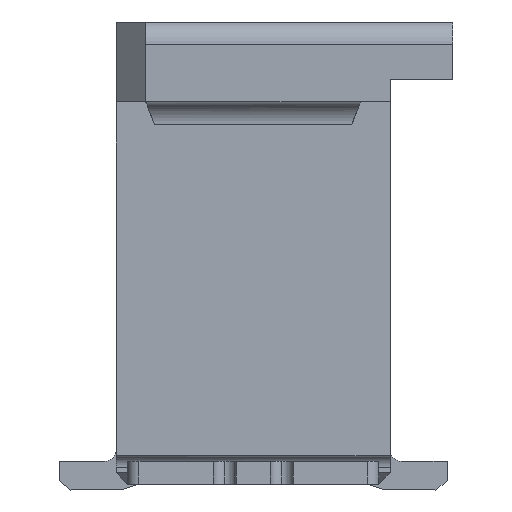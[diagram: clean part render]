
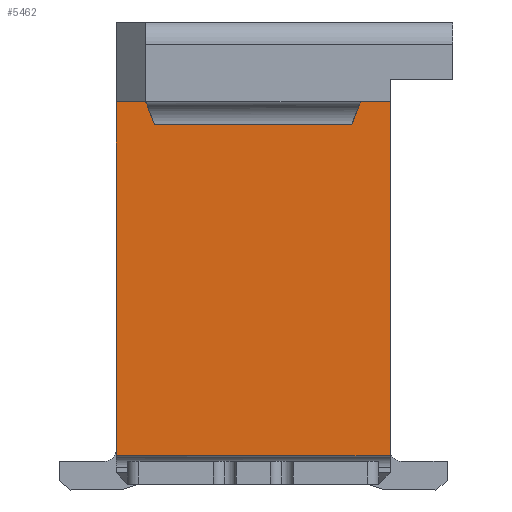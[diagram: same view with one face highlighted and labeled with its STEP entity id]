
A CAD part, left-side view. The second image highlights one B-rep face of the part: STEP entity #5462.
In plain terms, the highlighted planar face has unit normal (-1, 0, 0).
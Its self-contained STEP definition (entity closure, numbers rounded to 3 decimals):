
#32 = CARTESIAN_POINT ( 'NONE',  ( -4.7, 1.2, 0.25 ) ) ;
#302 = ORIENTED_EDGE ( 'NONE', *, *, #4507, .F. ) ;
#305 = B_SPLINE_CURVE_WITH_KNOTS ( 'NONE', 3,
 ( #8926, #8173, #9867, #2986 ),
 .UNSPECIFIED., .F., .F.,
 ( 4, 4 ),
 ( 0.07, 0.108 ),
 .UNSPECIFIED. ) ;
#340 = DIRECTION ( 'NONE',  ( 0., -1., 0. ) ) ;
#505 = EDGE_LOOP ( 'NONE', ( #9512, #6033, #2440, #302, #3277, #3327, #7653, #6742, #1732 ) ) ;
#589 = CARTESIAN_POINT ( 'NONE',  ( -4.7, 1.2, 3.35 ) ) ;
#690 = DIRECTION ( 'NONE',  ( 0., -1., 0. ) ) ;
#959 = CARTESIAN_POINT ( 'NONE',  ( -4.7, 4.83, 3.35 ) ) ;
#1006 = FACE_OUTER_BOUND ( 'NONE', #505, .T. ) ;
#1054 = CARTESIAN_POINT ( 'NONE',  ( -4.7, 1.033, 3.35 ) ) ;
#1267 = LINE ( 'NONE', #5454, #7832 ) ;
#1276 = DIRECTION ( 'NONE',  ( 0., -0.355, -0.935 ) ) ;
#1732 = ORIENTED_EDGE ( 'NONE', *, *, #6969, .T. ) ;
#1809 = DIRECTION ( 'NONE',  ( 0., 0., 1. ) ) ;
#2039 = VECTOR ( 'NONE', #690, 1000. ) ;
#2440 = ORIENTED_EDGE ( 'NONE', *, *, #4879, .F. ) ;
#2526 = LINE ( 'NONE', #3429, #4408 ) ;
#2717 = DIRECTION ( 'NONE',  ( 0., -0.355, 0.935 ) ) ;
#2723 = VERTEX_POINT ( 'NONE', #32 ) ;
#2750 = EDGE_CURVE ( 'NONE', #7920, #2723, #2526, .T. ) ;
#2849 = CARTESIAN_POINT ( 'NONE',  ( -4.7, 4.83, 3.35 ) ) ;
#2986 = CARTESIAN_POINT ( 'NONE',  ( -4.7, 0.94, 3.35 ) ) ;
#3138 = VECTOR ( 'NONE', #2717, 1000. ) ;
#3277 = ORIENTED_EDGE ( 'NONE', *, *, #6781, .F. ) ;
#3327 = ORIENTED_EDGE ( 'NONE', *, *, #8457, .F. ) ;
#3387 = VERTEX_POINT ( 'NONE', #5854 ) ;
#3429 = CARTESIAN_POINT ( 'NONE',  ( -4.7, 1.2, 3.35 ) ) ;
#3495 = DIRECTION ( 'NONE',  ( 1., 0., 0. ) ) ;
#3737 = VECTOR ( 'NONE', #5632, 1000. ) ;
#3859 = CARTESIAN_POINT ( 'NONE',  ( -4.7, -1.2, 0.25 ) ) ;
#3975 = CARTESIAN_POINT ( 'NONE',  ( -4.7, 4.83, 0.25 ) ) ;
#4181 = VERTEX_POINT ( 'NONE', #5801 ) ;
#4408 = VECTOR ( 'NONE', #10311, 1000. ) ;
#4507 = EDGE_CURVE ( 'NONE', #3387, #9242, #1267, .T. ) ;
#4678 = AXIS2_PLACEMENT_3D ( 'NONE', #959, #3495, #1809 ) ;
#4879 = EDGE_CURVE ( 'NONE', #9242, #4181, #10464, .T. ) ;
#4959 = LINE ( 'NONE', #5744, #3737 ) ;
#5454 = CARTESIAN_POINT ( 'NONE',  ( -4.7, 1.2, 3.15 ) ) ;
#5462 = ADVANCED_FACE ( 'NONE', ( #1006 ), #7755, .F. ) ;
#5471 = CARTESIAN_POINT ( 'NONE',  ( -4.7, 1.431, 4.642 ) ) ;
#5632 = DIRECTION ( 'NONE',  ( 0., 1., 0. ) ) ;
#5744 = CARTESIAN_POINT ( 'NONE',  ( -4.7, 4.83, 3.35 ) ) ;
#5801 = CARTESIAN_POINT ( 'NONE',  ( -4.7, -0.94, 3.35 ) ) ;
#5854 = CARTESIAN_POINT ( 'NONE',  ( -4.7, 0.864, 3.15 ) ) ;
#6033 = ORIENTED_EDGE ( 'NONE', *, *, #10046, .T. ) ;
#6742 = ORIENTED_EDGE ( 'NONE', *, *, #2750, .T. ) ;
#6772 = EDGE_CURVE ( 'NONE', #7920, #10419, #8823, .T. ) ;
#6778 = DIRECTION ( 'NONE',  ( 0., 0., 1. ) ) ;
#6781 = EDGE_CURVE ( 'NONE', #10161, #3387, #9244, .T. ) ;
#6856 = CARTESIAN_POINT ( 'NONE',  ( -4.7, -0.864, 3.15 ) ) ;
#6894 = VERTEX_POINT ( 'NONE', #3859 ) ;
#6969 = EDGE_CURVE ( 'NONE', #2723, #6894, #8182, .T. ) ;
#7098 = LINE ( 'NONE', #8480, #8565 ) ;
#7575 = CARTESIAN_POINT ( 'NONE',  ( -4.7, 0.94, 3.35 ) ) ;
#7653 = ORIENTED_EDGE ( 'NONE', *, *, #6772, .F. ) ;
#7677 = VECTOR ( 'NONE', #1276, 1000. ) ;
#7755 = PLANE ( 'NONE',  #4678 ) ;
#7832 = VECTOR ( 'NONE', #8843, 1000. ) ;
#7920 = VERTEX_POINT ( 'NONE', #589 ) ;
#8051 = VECTOR ( 'NONE', #340, 1000. ) ;
#8173 = CARTESIAN_POINT ( 'NONE',  ( -4.7, 1.002, 3.35 ) ) ;
#8182 = LINE ( 'NONE', #3975, #2039 ) ;
#8457 = EDGE_CURVE ( 'NONE', #10419, #10161, #305, .T. ) ;
#8480 = CARTESIAN_POINT ( 'NONE',  ( -4.7, -1.2, 3.35 ) ) ;
#8565 = VECTOR ( 'NONE', #6778, 1000. ) ;
#8704 = CARTESIAN_POINT ( 'NONE',  ( -4.7, -0.212, 1.434 ) ) ;
#8823 = LINE ( 'NONE', #2849, #8051 ) ;
#8843 = DIRECTION ( 'NONE',  ( 0., -1., 0. ) ) ;
#8850 = CARTESIAN_POINT ( 'NONE',  ( -4.7, -1.2, 3.35 ) ) ;
#8926 = CARTESIAN_POINT ( 'NONE',  ( -4.7, 1.033, 3.35 ) ) ;
#9047 = EDGE_CURVE ( 'NONE', #6894, #10563, #7098, .T. ) ;
#9242 = VERTEX_POINT ( 'NONE', #6856 ) ;
#9244 = LINE ( 'NONE', #5471, #7677 ) ;
#9512 = ORIENTED_EDGE ( 'NONE', *, *, #9047, .T. ) ;
#9867 = CARTESIAN_POINT ( 'NONE',  ( -4.7, 0.971, 3.35 ) ) ;
#10046 = EDGE_CURVE ( 'NONE', #10563, #4181, #4959, .T. ) ;
#10161 = VERTEX_POINT ( 'NONE', #7575 ) ;
#10311 = DIRECTION ( 'NONE',  ( 0., 0., -1. ) ) ;
#10419 = VERTEX_POINT ( 'NONE', #1054 ) ;
#10464 = LINE ( 'NONE', #8704, #3138 ) ;
#10563 = VERTEX_POINT ( 'NONE', #8850 ) ;
